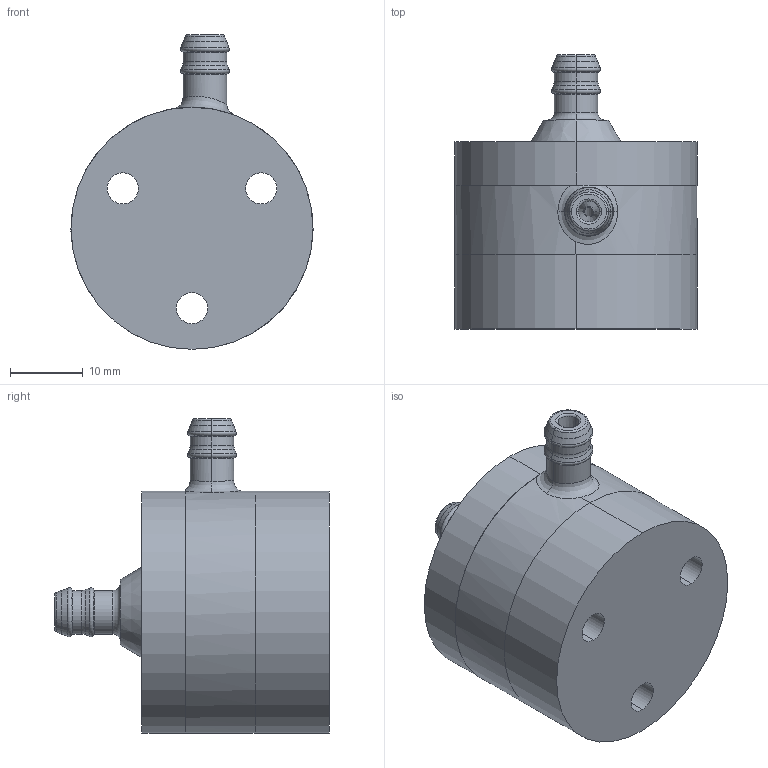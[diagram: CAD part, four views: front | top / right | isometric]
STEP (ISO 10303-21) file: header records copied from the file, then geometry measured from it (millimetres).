
FILE_DESCRIPTION (( 'STEP AP203' ), '1' );
FILE_NAME ('Cyclone for CPC R1 - Final.STEP', '2023-03-26T22:08:10', ( '' ), ( '' ), 'SwSTEP 2.0', 'SolidWorks 2020', '' );
FILE_SCHEMA (( 'CONFIG_CONTROL_DESIGN' ));
Length unit declared in the file: millimetre
Products named in the file (1): Cyclone for CPC R1 - Final
Bounding box: 33.35 x 37.8 x 43.35 mm (x, y, z)
Volume: 21817.4 mm3; surface area: 9733.7 mm2
Topology: 3 solids, 3 shells, 121 faces, 265 edges, 156 vertices
Faces by surface type: cylinder 50, torus 34, cone 22, plane 13, bspline 2
Entity records: 3816 total; most frequent: CARTESIAN_POINT 923, DIRECTION 676, ORIENTED_EDGE 530, AXIS2_PLACEMENT_3D 302, EDGE_CURVE 265, CIRCLE 182, VERTEX_POINT 156, EDGE_LOOP 151
